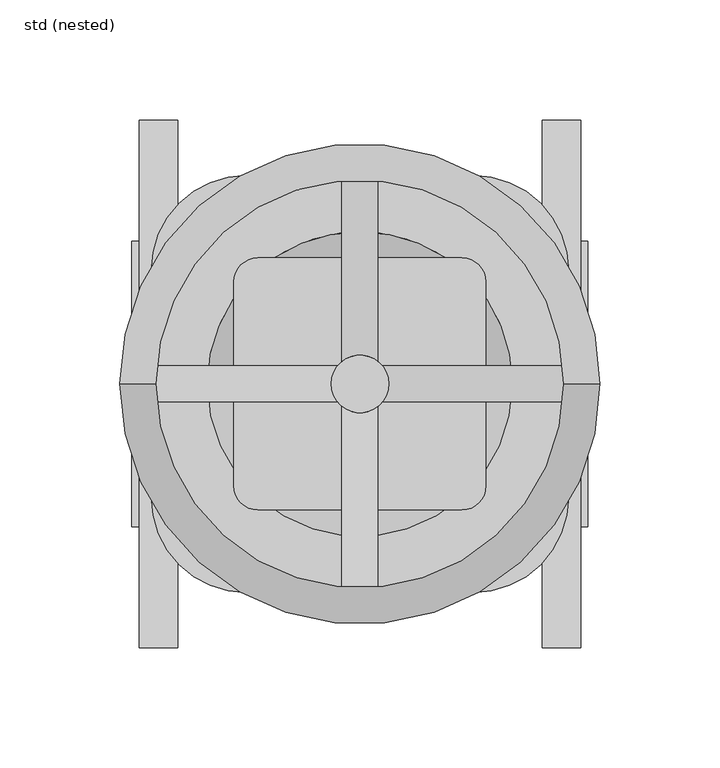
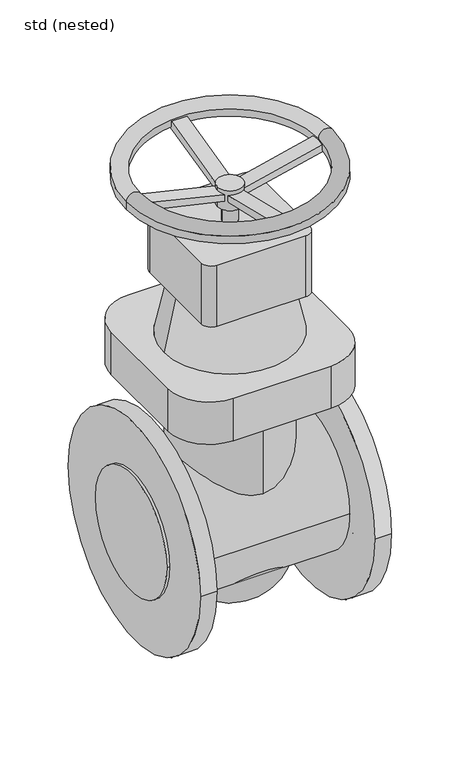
"""IFC4 building model written with IfcOpenShell, lengths in millimetres: valve geometry, ZZZ_do not use_PIA_FE_stop valve for muli pro_ACO : std (nested)."""

from ifc_helpers import new_model, si_unit, point, frame, origin, origin_2d, place, context, project, spatial, polyline, circle_curve, ellipse_curve, trimmed, segment, composite_curve, outline, extrude, source, transform, mapped, element, save
from ifc_brep_helpers import plane_surface, cylinder_surface, revolved_surface, advanced_brep


def std_nested_04ca3941(model_context):
    return source(origin(), model_context, "Body", "SolidModel", [
        advanced_brep(
        [(42.5, 52.5, 285.0), (-42.5, 52.5, 285.0), (-52.5, 42.5, 285.0), (-52.5, -42.5, 285.0), (-42.5, -52.5, 285.0), (42.5, -52.5, 285.0), (52.5, -42.5, 285.0), (52.5, 42.5, 285.0), (7.0, 0.0, 285.0), (-7.0, 0.0, 285.0), (42.5, 52.5, 223.0), (52.5, 42.5, 223.0), (52.5, 0.0, 223.0), (0.0, 52.5, 223.0), (52.5, -42.5, 223.0), (42.5, -52.5, 223.0), (0.0, -52.5, 223.0), (-42.5, -52.5, 223.0), (-52.5, -42.5, 223.0), (-52.5, 0.0, 223.0), (-52.5, 42.5, 223.0), (-42.5, 52.5, 223.0), (-7.0, 0.0, 302.0), (7.0, 0.0, 302.0), (-63.5, 0.0, 172.0), (63.5, 0.0, 172.0), (47.0, 87.0, 172.0), (-47.0, 87.0, 172.0), (-87.0, 47.0, 172.0), (-87.0, -47.0, 172.0), (-47.0, -87.0, 172.0), (47.0, -87.0, 172.0), (87.0, -47.0, 172.0), (87.0, 47.0, 172.0), (47.0, 87.0, 129.0), (87.0, 47.0, 129.0), (87.0, -47.0, 129.0), (47.0, -87.0, 129.0), (-47.0, -87.0, 129.0), (-87.0, -47.0, 129.0), (-87.0, 47.0, 129.0), (-47.0, 87.0, 129.0), (0.0, 55.0, 129.0), (0.0, -55.0, 129.0), (0.0, -55.0, -38.0), (-55.0, 0.0, -38.0), (0.0, 55.0, -38.0), (55.0, 0.0, -38.0)],
        [
            (0, 1),
            (1, 2, circle_curve(frame((-42.5, 42.5, 285.0), z_axis=(0.0, 0.0, 1.0), x_axis=(1.0, 0.0, 0.0)), 10.0)),
            (2, 3),
            (3, 4, circle_curve(frame((-42.5, -42.5, 285.0), z_axis=(0.0, 0.0, 1.0), x_axis=(1.0, 0.0, 0.0)), 10.0)),
            (4, 5),
            (5, 6, circle_curve(frame((42.5, -42.5, 285.0), z_axis=(0.0, 0.0, 1.0), x_axis=(1.0, 0.0, 0.0)), 10.0)),
            (6, 7),
            (7, 0, circle_curve(frame((42.5, 42.5, 285.0), z_axis=(0.0, 0.0, 1.0), x_axis=(1.0, 0.0, 0.0)), 10.0)),
            (8, 9, circle_curve(frame((0.0, 0.0, 285.0), z_axis=(0.0, 0.0, -1.0), x_axis=(1.0, 0.0, 0.0)), 7.0)),
            (9, 8, circle_curve(frame((0.0, 0.0, 285.0), z_axis=(0.0, 0.0, -1.0), x_axis=(1.0, 0.0, 0.0)), 7.0)),
            (10, 11, circle_curve(frame((42.5, 42.5, 223.0), z_axis=(0.0, 0.0, -1.0), x_axis=(1.0, 0.0, 0.0)), 10.0)),
            (11, 12),
            (12, 13, circle_curve(frame((0.0, 0.0, 223.0), z_axis=(0.0, 0.0, 1.0), x_axis=(1.0, 0.0, 0.0)), 52.5)),
            (13, 10),
            (14, 15, circle_curve(frame((42.5, -42.5, 223.0), z_axis=(0.0, 0.0, -1.0), x_axis=(1.0, 0.0, 0.0)), 10.0)),
            (15, 16),
            (16, 12, circle_curve(frame((0.0, 0.0, 223.0), z_axis=(0.0, 0.0, 1.0), x_axis=(-1.0, 0.0, 0.0)), 52.5)),
            (12, 14),
            (17, 18, circle_curve(frame((-42.5, -42.5, 223.0), z_axis=(0.0, 0.0, -1.0), x_axis=(1.0, 0.0, 0.0)), 10.0)),
            (18, 19),
            (19, 16, circle_curve(frame((0.0, 0.0, 223.0), z_axis=(0.0, 0.0, 1.0), x_axis=(-1.0, 0.0, 0.0)), 52.5)),
            (16, 17),
            (20, 21, circle_curve(frame((-42.5, 42.5, 223.0), z_axis=(0.0, 0.0, -1.0), x_axis=(1.0, 0.0, 0.0)), 10.0)),
            (21, 13),
            (13, 19, circle_curve(frame((0.0, 0.0, 223.0), z_axis=(0.0, 0.0, 1.0), x_axis=(1.0, 0.0, 0.0)), 52.5)),
            (19, 20),
            (0, 10),
            (21, 1),
            (2, 20),
            (18, 3),
            (4, 17),
            (15, 5),
            (6, 14),
            (11, 7),
            (22, 23, circle_curve(frame((0.0, 0.0, 302.0), z_axis=(0.0, 0.0, 1.0), x_axis=(1.0, 0.0, 0.0)), 7.0)),
            (23, 22, circle_curve(frame((0.0, 0.0, 302.0), z_axis=(0.0, 0.0, 1.0), x_axis=(1.0, 0.0, 0.0)), 7.0)),
            (22, 9),
            (8, 23),
            (24, 19),
            (12, 25),
            (25, 24, circle_curve(frame((0.0, 0.0, 172.0), z_axis=(0.0, 0.0, 1.0), x_axis=(1.0, 0.0, 0.0)), 63.5)),
            (24, 25, circle_curve(frame((0.0, 0.0, 172.0), z_axis=(0.0, 0.0, 1.0), x_axis=(-1.0, 0.0, 0.0)), 63.5)),
            (26, 27),
            (27, 28, circle_curve(frame((-47.0, 47.0, 172.0), z_axis=(0.0, 0.0, 1.0), x_axis=(1.0, 0.0, 0.0)), 40.0)),
            (28, 29),
            (29, 30, circle_curve(frame((-47.0, -47.0, 172.0), z_axis=(0.0, 0.0, 1.0), x_axis=(1.0, 0.0, 0.0)), 40.0)),
            (30, 31),
            (31, 32, circle_curve(frame((47.0, -47.0, 172.0), z_axis=(0.0, 0.0, 1.0), x_axis=(1.0, 0.0, 0.0)), 40.0)),
            (32, 33),
            (33, 26, circle_curve(frame((47.0, 47.0, 172.0), z_axis=(0.0, 0.0, 1.0), x_axis=(1.0, 0.0, 0.0)), 40.0)),
            (34, 35, circle_curve(frame((47.0, 47.0, 129.0), z_axis=(0.0, 0.0, -1.0), x_axis=(1.0, 0.0, 0.0)), 40.0)),
            (35, 36),
            (36, 37, circle_curve(frame((47.0, -47.0, 129.0), z_axis=(0.0, 0.0, -1.0), x_axis=(1.0, 0.0, 0.0)), 40.0)),
            (37, 38),
            (38, 39, circle_curve(frame((-47.0, -47.0, 129.0), z_axis=(0.0, 0.0, -1.0), x_axis=(1.0, 0.0, 0.0)), 40.0)),
            (39, 40),
            (40, 41, circle_curve(frame((-47.0, 47.0, 129.0), z_axis=(0.0, 0.0, -1.0), x_axis=(1.0, 0.0, 0.0)), 40.0)),
            (41, 34),
            (42, 43, circle_curve(frame((0.0, 0.0, 129.0), z_axis=(0.0, 0.0, 1.0), x_axis=(0.0, -1.0, 0.0)), 55.0)),
            (43, 42, circle_curve(frame((0.0, 0.0, 129.0), z_axis=(0.0, 0.0, 1.0), x_axis=(0.0, -1.0, 0.0)), 55.0)),
            (26, 34),
            (41, 27),
            (28, 40),
            (39, 29),
            (30, 38),
            (37, 31),
            (32, 36),
            (35, 33),
            (44, 45, circle_curve(frame((0.0, 0.0, -38.0), z_axis=(0.0, 0.0, -1.0), x_axis=(0.0, 1.0, 0.0)), 55.0)),
            (45, 46, circle_curve(frame((0.0, 0.0, -38.0), z_axis=(0.0, 0.0, -1.0), x_axis=(0.0, -1.0, 0.0)), 55.0)),
            (46, 47, circle_curve(frame((0.0, 0.0, -38.0), z_axis=(0.0, 0.0, -1.0), x_axis=(0.0, -1.0, 0.0)), 55.0)),
            (47, 44, circle_curve(frame((0.0, 0.0, -38.0), z_axis=(0.0, 0.0, -1.0), x_axis=(0.0, 1.0, 0.0)), 55.0)),
            (42, 46),
            (44, 43),
        ],
        [
            plane_surface(frame((-42.5, 52.5, 285.0), z_axis=(0.0, 0.0, 1.0), x_axis=(-1.0, 0.0, 0.0))),
            plane_surface(frame((-42.5, 52.5, 223.0), z_axis=(0.0, 0.0, -1.0), x_axis=(1.0, 0.0, 0.0))),
            plane_surface(frame((42.5, 52.5, 285.0), z_axis=(0.0, 1.0, 0.0), x_axis=(0.0, 0.0, -1.0))),
            plane_surface(frame((-52.5, 42.5, 285.0), z_axis=(-1.0, 0.0, 0.0), x_axis=(0.0, 0.0, -1.0))),
            plane_surface(frame((-42.5, -52.5, 285.0), z_axis=(0.0, -1.0, 0.0), x_axis=(0.0, 0.0, -1.0))),
            plane_surface(frame((52.5, -42.5, 285.0), z_axis=(1.0, 0.0, 0.0), x_axis=(0.0, 0.0, -1.0))),
            cylinder_surface(frame((-42.5, 42.5, 223.0), z_axis=(0.0, 0.0, 1.0), x_axis=(1.0, 0.0, 0.0)), 10.0),
            cylinder_surface(frame((-42.5, -42.5, 223.0), z_axis=(0.0, 0.0, 1.0), x_axis=(1.0, 0.0, 0.0)), 10.0),
            cylinder_surface(frame((42.5, -42.5, 223.0), z_axis=(0.0, 0.0, 1.0), x_axis=(1.0, 0.0, 0.0)), 10.0),
            cylinder_surface(frame((42.5, 42.5, 223.0), z_axis=(0.0, 0.0, 1.0), x_axis=(1.0, 0.0, 0.0)), 10.0),
            plane_surface(frame((7.0, 0.0, 302.0), z_axis=(0.0, 0.0, 1.0), x_axis=(0.0, 1.0, 0.0))),
            cylinder_surface(frame((0.0, 0.0, 285.0), z_axis=(0.0, 0.0, 1.0), x_axis=(1.0, 0.0, 0.0)), 7.0),
            revolved_surface(polyline([(-52.49999999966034, 0.0, 223.0), (-63.5, 0.0, 172.0)]), (0.0, 0.0, 466.4090909), (0.0, 0.0, -1.0)),
            plane_surface(frame((-47.0, 87.0, 172.0), z_axis=(0.0, 0.0, 1.0), x_axis=(-1.0, 0.0, 0.0))),
            plane_surface(frame((-47.0, 87.0, 129.0), z_axis=(0.0, 0.0, -1.0), x_axis=(1.0, 0.0, 0.0))),
            plane_surface(frame((47.0, 87.0, 172.0), z_axis=(0.0, 1.0, 0.0), x_axis=(0.0, 0.0, -1.0))),
            plane_surface(frame((-87.0, 47.0, 172.0), z_axis=(-1.0, 0.0, 0.0), x_axis=(0.0, 0.0, -1.0))),
            plane_surface(frame((-47.0, -87.0, 172.0), z_axis=(0.0, -1.0, 0.0), x_axis=(0.0, 0.0, -1.0))),
            plane_surface(frame((87.0, -47.0, 172.0), z_axis=(1.0, 0.0, 0.0), x_axis=(0.0, 0.0, -1.0))),
            cylinder_surface(frame((-47.0, 47.0, 129.0), z_axis=(0.0, 0.0, 1.0), x_axis=(1.0, 0.0, 0.0)), 40.0),
            cylinder_surface(frame((-47.0, -47.0, 129.0), z_axis=(0.0, 0.0, 1.0), x_axis=(1.0, 0.0, 0.0)), 40.0),
            cylinder_surface(frame((47.0, -47.0, 129.0), z_axis=(0.0, 0.0, 1.0), x_axis=(1.0, 0.0, 0.0)), 40.0),
            cylinder_surface(frame((47.0, 47.0, 129.0), z_axis=(0.0, 0.0, 1.0), x_axis=(1.0, 0.0, 0.0)), 40.0),
            revolved_surface(trimmed(ellipse_curve(frame((0.0, 0.0, -38.0), z_axis=(0.0, 0.0, 1.0), x_axis=(0.0, -1.0, 0.0)), 55.0, 55.0), [point((55.0, 0.0, -38.0))], [point((-55.0, 0.0, -38.0))], True, "CARTESIAN"), (-69.0, 0.0, -38.0), (-1.0, 0.0, 0.0)),
            cylinder_surface(frame((0.0, 0.0, -38.0), z_axis=(0.0, 0.0, 1.0), x_axis=(0.0, -1.0, 0.0)), 55.0),
        ],
        [
            (0, [[1, 2, 3, 4, 5, 6, 7, 8], [9, 10]]),
            (1, [[11, 12, 13, 14]]),
            (1, [[15, 16, 17, 18]]),
            (1, [[19, 20, 21, 22]]),
            (1, [[23, 24, 25, 26]]),
            (2, [[-1, 27, -14, -24, 28]]),
            (3, [[-3, 29, -26, -20, 30]]),
            (4, [[-5, 31, -22, -16, 32]]),
            (5, [[-7, 33, -18, -12, 34]]),
            (6, [[-2, -28, -23, -29]]),
            (7, [[-4, -30, -19, -31]]),
            (8, [[-6, -32, -15, -33]]),
            (9, [[-8, -34, -11, -27]]),
            (10, [[35, 36]]),
            (11, [[-35, 37, -9, 38]]),
            (11, [[-36, -38, -10, -37]]),
            (12, [[39, -25, -13, 40, 41]]),
            (12, [[-39, 42, -40, -17, -21]]),
            (13, [[43, 44, 45, 46, 47, 48, 49, 50], [-41, -42]]),
            (14, [[51, 52, 53, 54, 55, 56, 57, 58], [59, 60]]),
            (15, [[-43, 61, -58, 62]]),
            (16, [[-45, 63, -56, 64]]),
            (17, [[-47, 65, -54, 66]]),
            (18, [[-49, 67, -52, 68]]),
            (19, [[-44, -62, -57, -63]]),
            (20, [[-46, -64, -55, -65]]),
            (21, [[-48, -66, -53, -67]]),
            (22, [[-50, -68, -51, -61]]),
            (23, [[69, 70, 71, 72]]),
            (24, [[73, -70, -69, 74, -59]]),
            (24, [[-73, -60, -74, -72, -71]]),
        ],
    ),
        advanced_brep(
        [(-92.5, -7.5, 330.0), (-9.367497, -7.5, 310.8270984), (-9.367497, -7.5, 317.5781569), (-84.6684711, -7.5, 335.6232552), (-84.6684711, -7.5, 330.0), (9.367497, -7.5, 310.8270984), (92.5, -7.5, 330.0), (84.6684711, -7.5, 330.0), (84.6684711, -7.5, 335.6232552), (9.367497, -7.5, 317.5781569), (92.5, 7.5, 330.0), (9.367497, 7.5, 310.8270984), (9.367497, 7.5, 317.5781569), (84.6684711, 7.5, 335.6232552), (84.6684711, 7.5, 330.0), (-9.367497, 7.5, 310.8270984), (-92.5, 7.5, 330.0), (-84.6684711, 7.5, 330.0), (-84.6684711, 7.5, 335.6232552), (-9.367497, 7.5, 317.5781569), (12.0, 0.0, 318.209009), (85.0, 0.0, 335.7027027), (-12.0, 0.0, 318.209009), (-85.0, 0.0, 335.7027027), (-92.5, 0.0, 330.0), (-12.0, 0.0, 311.4342342), (12.0, 0.0, 311.4342342), (92.5, 0.0, 330.0), (-12.0, 0.0, 322.0), (12.0, 0.0, 322.0), (-12.0, 0.0, 302.0), (12.0, 0.0, 302.0), (7.5, -9.367497, 317.5781569), (7.5, -9.367497, 310.8270984), (-7.5, -9.367497, 310.8270984), (-7.5, -9.367497, 317.5781569), (7.5, 9.367497, 310.8270984), (7.5, 9.367497, 317.5781569), (-7.5, 9.367497, 317.5781569), (-7.5, 9.367497, 310.8270984), (7.5, -92.5, 330.0), (7.5, -84.6684711, 335.6232552), (7.5, -84.6684711, 330.0), (7.5, 92.5, 330.0), (7.5, 84.6684711, 330.0), (7.5, 84.6684711, 335.6232552), (-7.5, 92.5, 330.0), (-7.5, 84.6684711, 335.6232552), (-7.5, 84.6684711, 330.0), (-7.5, -92.5, 330.0), (-7.5, -84.6684711, 330.0), (-7.5, -84.6684711, 335.6232552), (-100.0, 0.0, 330.0), (100.0, 0.0, 330.0), (-100.0, 0.0, 337.5), (100.0, 0.0, 337.5), (-85.0, 0.0, 337.5), (85.0, 0.0, 337.5)],
        [
            (0, 1),
            (1, 2),
            (2, 3),
            (3, 4),
            (4, 0),
            (5, 6),
            (6, 7),
            (7, 8),
            (8, 9),
            (9, 5),
            (10, 11),
            (11, 12),
            (12, 13),
            (13, 14),
            (14, 10),
            (15, 16),
            (16, 17),
            (17, 18),
            (18, 19),
            (19, 15),
            (20, 9, ellipse_curve(frame((0.0, 0.0, 315.3333333), z_axis=(0.23304158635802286, 0.0, -0.9724667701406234), x_axis=(0.9724667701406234, 0.0, 0.23304158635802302)), 12.3397533, 12.0)),
            (8, 21, ellipse_curve(frame((0.0, 0.0, 315.3333333), z_axis=(-0.23304158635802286, 0.0, 0.9724667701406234), x_axis=(0.9724667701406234, 0.0, 0.23304158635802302)), 87.4065856, 85.0)),
            (21, 13, ellipse_curve(frame((0.0, 0.0, 315.3333333), z_axis=(-0.23304158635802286, 0.0, 0.9724667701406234), x_axis=(0.9724667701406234, 0.0, 0.23304158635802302)), 87.4065856, 85.0)),
            (12, 20, ellipse_curve(frame((0.0, 0.0, 315.3333333), z_axis=(0.23304158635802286, 0.0, -0.9724667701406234), x_axis=(0.9724667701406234, 0.0, 0.23304158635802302)), 12.3397533, 12.0)),
            (2, 22, ellipse_curve(frame((0.0, 0.0, 315.3333333), z_axis=(-0.23304158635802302, 0.0, -0.9724667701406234), x_axis=(-0.9724667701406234, 0.0, 0.23304158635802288)), 12.3397533, 12.0)),
            (22, 19, ellipse_curve(frame((0.0, 0.0, 315.3333333), z_axis=(-0.23304158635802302, 0.0, -0.9724667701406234), x_axis=(-0.9724667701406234, 0.0, 0.23304158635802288)), 12.3397533, 12.0)),
            (18, 23, ellipse_curve(frame((0.0, 0.0, 315.3333333), z_axis=(0.23304158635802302, 0.0, 0.9724667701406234), x_axis=(-0.9724667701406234, 0.0, 0.23304158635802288)), 87.4065856, 85.0)),
            (23, 3, ellipse_curve(frame((0.0, 0.0, 315.3333333), z_axis=(0.23304158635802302, 0.0, 0.9724667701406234), x_axis=(-0.9724667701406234, 0.0, 0.23304158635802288)), 87.4065856, 85.0)),
            (0, 24),
            (24, 16),
            (15, 25, ellipse_curve(frame((0.0, 0.0, 308.6666667), z_axis=(0.22473127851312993, 0.0, 0.9744207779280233), x_axis=(-0.9744207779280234, 0.0, 0.2247312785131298)), 12.3150083, 12.0)),
            (25, 1, ellipse_curve(frame((0.0, 0.0, 308.6666667), z_axis=(0.22473127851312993, 0.0, 0.9744207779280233), x_axis=(-0.9744207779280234, 0.0, 0.2247312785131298)), 12.3150083, 12.0)),
            (5, 26, ellipse_curve(frame((0.0, 0.0, 308.6666667), z_axis=(-0.22473127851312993, 0.0, 0.9744207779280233), x_axis=(0.9744207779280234, 0.0, 0.2247312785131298)), 12.3150083, 12.0)),
            (26, 11, ellipse_curve(frame((0.0, 0.0, 308.6666667), z_axis=(-0.22473127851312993, 0.0, 0.9744207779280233), x_axis=(0.9744207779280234, 0.0, 0.2247312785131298)), 12.3150083, 12.0)),
            (10, 27),
            (27, 6),
            (28, 29, circle_curve(frame((0.0, 0.0, 322.0), z_axis=(0.0, 0.0, 1.0), x_axis=(1.0, 0.0, 0.0)), 12.0)),
            (29, 28, circle_curve(frame((0.0, 0.0, 322.0), z_axis=(0.0, 0.0, 1.0), x_axis=(1.0, 0.0, 0.0)), 12.0)),
            (30, 31, circle_curve(frame((0.0, 0.0, 302.0), z_axis=(0.0, 0.0, -1.0), x_axis=(1.0, 0.0, 0.0)), 12.0)),
            (31, 30, circle_curve(frame((0.0, 0.0, 302.0), z_axis=(0.0, 0.0, -1.0), x_axis=(1.0, 0.0, 0.0)), 12.0)),
            (28, 22),
            (25, 30),
            (31, 26),
            (20, 29),
            (32, 33),
            (33, 34, ellipse_curve(frame((0.0, 0.0, 308.6666667), z_axis=(0.0, -0.22473127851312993, -0.9744207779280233), x_axis=(0.0, -0.9744207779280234, 0.2247312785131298)), 12.3150083, 12.0)),
            (34, 35),
            (35, 32, ellipse_curve(frame((0.0, 0.0, 315.3333333), z_axis=(0.0, 0.2330415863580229, 0.9724667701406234), x_axis=(0.0, -0.9724667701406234, 0.23304158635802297)), 12.3397533, 12.0)),
            (36, 37),
            (37, 38, ellipse_curve(frame((0.0, 0.0, 315.3333333), z_axis=(0.0, -0.233041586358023, 0.9724667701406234), x_axis=(0.0, 0.9724667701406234, 0.23304158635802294)), 12.3397533, 12.0)),
            (38, 39),
            (39, 36, ellipse_curve(frame((0.0, 0.0, 308.6666667), z_axis=(0.0, 0.22473127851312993, -0.9744207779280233), x_axis=(0.0, 0.9744207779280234, 0.2247312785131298)), 12.3150083, 12.0)),
            (40, 33),
            (32, 41),
            (41, 42),
            (42, 40),
            (36, 43),
            (43, 44),
            (44, 45),
            (45, 37),
            (46, 39),
            (38, 47),
            (47, 48),
            (48, 46),
            (34, 49),
            (49, 50),
            (50, 51),
            (51, 35),
            (40, 49),
            (46, 43),
            (45, 47, ellipse_curve(frame((0.0, 0.0, 315.3333333), z_axis=(0.0, -0.233041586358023, 0.9724667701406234), x_axis=(0.0, 0.9724667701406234, 0.23304158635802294)), 87.4065856, 85.0)),
            (51, 41, ellipse_curve(frame((0.0, 0.0, 315.3333333), z_axis=(0.0, 0.2330415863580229, 0.9724667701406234), x_axis=(0.0, -0.9724667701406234, 0.23304158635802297)), 87.4065856, 85.0)),
            (52, 53, circle_curve(frame((0.0, 0.0, 330.0), z_axis=(0.0, 0.0, -1.0), x_axis=(1.0, 0.0, 0.0)), 100.0)),
            (53, 27),
            (14, 44, circle_curve(frame((0.0, 0.0, 330.0), z_axis=(0.0, 0.0, 1.0), x_axis=(1.0, 0.0, 0.0)), 85.0)),
            (48, 17, circle_curve(frame((0.0, 0.0, 330.0), z_axis=(0.0, 0.0, 1.0), x_axis=(1.0, 0.0, 0.0)), 85.0)),
            (24, 52),
            (53, 52, circle_curve(frame((0.0, 0.0, 330.0), z_axis=(0.0, 0.0, -1.0), x_axis=(1.0, 0.0, 0.0)), 100.0)),
            (4, 50, circle_curve(frame((0.0, 0.0, 330.0), z_axis=(0.0, 0.0, 1.0), x_axis=(1.0, 0.0, 0.0)), 85.0)),
            (42, 7, circle_curve(frame((0.0, 0.0, 330.0), z_axis=(0.0, 0.0, 1.0), x_axis=(1.0, 0.0, 0.0)), 85.0)),
            (52, 54),
            (54, 55, circle_curve(frame((0.0, 0.0, 337.5), z_axis=(0.0, 0.0, -1.0), x_axis=(1.0, 0.0, 0.0)), 100.0)),
            (55, 53),
            (55, 54, circle_curve(frame((0.0, 0.0, 337.5), z_axis=(0.0, 0.0, -1.0), x_axis=(1.0, 0.0, 0.0)), 100.0)),
            (54, 56, circle_curve(frame((-92.5, 0.0, 337.5), z_axis=(0.0, 1.0, 0.0), x_axis=(0.0, 0.0, 1.0)), 7.5)),
            (56, 57, circle_curve(frame((0.0, 0.0, 337.5), z_axis=(0.0, 0.0, -1.0), x_axis=(1.0, 0.0, 0.0)), 85.0)),
            (57, 55, circle_curve(frame((92.5, 0.0, 337.5), z_axis=(0.0, 1.0, 0.0), x_axis=(0.0, 0.0, 1.0)), 7.5)),
            (57, 56, circle_curve(frame((0.0, 0.0, 337.5), z_axis=(0.0, 0.0, -1.0), x_axis=(1.0, 0.0, 0.0)), 85.0)),
            (56, 23),
            (21, 57),
        ],
        [
            plane_surface(frame((92.5, -7.5, 330.0), z_axis=(0.0, -1.0, 0.0), x_axis=(0.0, 0.0, 1.0))),
            plane_surface(frame((92.5, 7.5, 330.0), z_axis=(0.0, 1.0, 0.0), x_axis=(0.0, 0.0, -1.0))),
            plane_surface(frame((92.5, -7.5, 337.5), z_axis=(-0.23304158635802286, 0.0, 0.9724667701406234), x_axis=(0.0, 1.0, 0.0))),
            plane_surface(frame((0.0, -7.5, 315.3333333), z_axis=(0.23304158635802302, 0.0, 0.9724667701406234), x_axis=(0.0, 1.0, 0.0))),
            plane_surface(frame((-92.5, -7.5, 330.0), z_axis=(-0.22473127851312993, 0.0, -0.9744207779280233), x_axis=(0.0, 1.0, 0.0))),
            plane_surface(frame((0.0, -7.5, 308.6666667), z_axis=(0.22473127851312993, 0.0, -0.9744207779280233), x_axis=(0.0, 1.0, 0.0))),
            plane_surface(frame((12.0, 0.0, 322.0), z_axis=(0.0, 0.0, 1.0), x_axis=(0.0, 1.0, 0.0))),
            plane_surface(frame((12.0, 0.0, 302.0), z_axis=(0.0, 0.0, -1.0), x_axis=(0.0, -1.0, 0.0))),
            cylinder_surface(frame((0.0, 0.0, 302.0), z_axis=(0.0, 0.0, 1.0), x_axis=(1.0, 0.0, 0.0)), 12.0),
            plane_surface(frame((7.5, 0.0, 308.6666667), z_axis=(1.0, 0.0, 0.0), x_axis=(0.0, 0.9744207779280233, -0.22473127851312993))),
            plane_surface(frame((-7.5, 0.0, 308.6666667), z_axis=(-1.0, 0.0, 0.0), x_axis=(0.0, -0.9744207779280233, 0.22473127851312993))),
            plane_surface(frame((7.5, -92.5, 330.0), z_axis=(0.0, -0.22473127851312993, -0.9744207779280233), x_axis=(-1.0, 0.0, 0.0))),
            plane_surface(frame((7.5, 0.0, 308.6666667), z_axis=(0.0, 0.22473127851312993, -0.9744207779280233), x_axis=(-1.0, 0.0, 0.0))),
            plane_surface(frame((7.5, 92.5, 337.5), z_axis=(0.0, -0.233041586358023, 0.9724667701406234), x_axis=(-1.0, 0.0, 0.0))),
            plane_surface(frame((7.5, 0.0, 315.3333333), z_axis=(0.0, 0.2330415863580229, 0.9724667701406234), x_axis=(-1.0, 0.0, 0.0))),
            plane_surface(frame((0.0, 0.0, 330.0), z_axis=(0.0, 0.0, -1.0), x_axis=(1.0, 0.0, 0.0))),
            cylinder_surface(frame((0.0, 0.0, 435.0), z_axis=(0.0, 0.0, 1.0), x_axis=(1.0, 0.0, 0.0)), 100.0),
            revolved_surface(trimmed(ellipse_curve(frame((92.5, 0.0, 337.5), z_axis=(0.0, -1.0, 0.0), x_axis=(0.0, 0.0, 1.0)), 7.5, 7.5), [point((100.0, 0.0, 337.5))], [point((85.0, 0.0, 337.5))], True, "CARTESIAN"), (0.0, 0.0, 435.0), (0.0, 0.0, 1.0)),
            revolved_surface(polyline([(85.0, 0.0, 337.5), (85.0, 0.0, 294.9639639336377)]), (0.0, 0.0, 435.0), (0.0, 0.0, 1.0)),
        ],
        [
            (0, [[1, 2, 3, 4, 5]]),
            (0, [[6, 7, 8, 9, 10]]),
            (1, [[11, 12, 13, 14, 15]]),
            (1, [[16, 17, 18, 19, 20]]),
            (2, [[21, -9, 22, 23, -13, 24]]),
            (3, [[25, 26, -19, 27, 28, -3]]),
            (4, [[-1, 29, 30, -16, 31, 32]]),
            (5, [[-6, 33, 34, -11, 35, 36]]),
            (6, [[37, 38]]),
            (7, [[39, 40]]),
            (8, [[-37, 41, -25, -2, -32, 42, -40, 43, -33, -10, -21, 44], [45, 46, 47, 48]]),
            (8, [[-38, -44, -24, -12, -34, -43, -39, -42, -31, -20, -26, -41], [49, 50, 51, 52]]),
            (9, [[53, -45, 54, 55, 56]]),
            (9, [[57, 58, 59, 60, -49]]),
            (10, [[61, -51, 62, 63, 64]]),
            (10, [[65, 66, 67, 68, -47]]),
            (11, [[-53, 69, -65, -46]]),
            (12, [[-57, -52, -61, 70]]),
            (13, [[-50, -60, 71, -62]]),
            (14, [[-48, -68, 72, -54]]),
            (15, [[73, 74, -35, -15, 75, -58, -70, -64, 76, -17, -30, 77]]),
            (15, [[78, -77, -29, -5, 79, -66, -69, -56, 80, -7, -36, -74]]),
            (16, [[-73, 81, 82, 83]]),
            (16, [[-78, -83, 84, -81]]),
            (17, [[-82, 85, 86, 87]]),
            (17, [[-84, -87, 88, -85]]),
            (18, [[-86, 89, -27, -18, -76, -63, -71, -59, -75, -14, -23, 90]]),
            (18, [[-88, -90, -22, -8, -80, -55, -72, -67, -79, -4, -28, -89]]),
        ],
    ),
        advanced_brep(
        [(76.0, -68.0, 0.0), (76.0, 68.0, 0.0), (-76.0, -68.0, 0.0), (-76.0, 68.0, 0.0), (-76.0, -110.0, 0.0), (-76.0, 110.0, 0.0), (-92.0, -110.0, 0.0), (-92.0, 110.0, 0.0)],
        [
            (0, 1, circle_curve(frame((76.0, 0.0, 0.0), z_axis=(1.0, 0.0, 0.0), x_axis=(0.0, 1.0, 0.0)), 68.0)),
            (1, 0, circle_curve(frame((76.0, 0.0, 0.0), z_axis=(1.0, 0.0, 0.0), x_axis=(0.0, 1.0, 0.0)), 68.0)),
            (0, 2),
            (2, 3, circle_curve(frame((-76.0, 0.0, 0.0), z_axis=(1.0, 0.0, 0.0), x_axis=(0.0, 1.0, 0.0)), 68.0)),
            (3, 1),
            (3, 2, circle_curve(frame((-76.0, 0.0, 0.0), z_axis=(1.0, 0.0, 0.0), x_axis=(0.0, 1.0, 0.0)), 68.0)),
            (4, 5, circle_curve(frame((-76.0, 0.0, 0.0), z_axis=(1.0, 0.0, 0.0), x_axis=(0.0, 1.0, 0.0)), 110.0)),
            (5, 4, circle_curve(frame((-76.0, 0.0, 0.0), z_axis=(1.0, 0.0, 0.0), x_axis=(0.0, 1.0, 0.0)), 110.0)),
            (6, 7, circle_curve(frame((-92.0, 0.0, 0.0), z_axis=(-1.0, 0.0, 0.0), x_axis=(0.0, 1.0, 0.0)), 110.0)),
            (7, 6, circle_curve(frame((-92.0, 0.0, 0.0), z_axis=(-1.0, 0.0, 0.0), x_axis=(0.0, 1.0, 0.0)), 110.0)),
            (4, 6),
            (7, 5),
        ],
        [
            plane_surface(frame((76.0, 68.0, 0.0), z_axis=(1.0, 0.0, 0.0), x_axis=(0.0, 0.0, 1.0))),
            cylinder_surface(frame((-76.0, 0.0, 0.0), z_axis=(1.0, 0.0, 0.0), x_axis=(0.0, 1.0, 0.0)), 68.0),
            plane_surface(frame((-76.0, 110.0, 0.0), z_axis=(1.0, 0.0, 0.0), x_axis=(0.0, 0.0, 1.0))),
            plane_surface(frame((-92.0, 110.0, 0.0), z_axis=(-1.0, 0.0, 0.0), x_axis=(0.0, 0.0, -1.0))),
            cylinder_surface(frame((-92.0, 0.0, 0.0), z_axis=(1.0, 0.0, 0.0), x_axis=(0.0, 1.0, 0.0)), 110.0),
        ],
        [
            (0, [[1, 2]]),
            (1, [[-1, 3, 4, 5]]),
            (1, [[-2, -5, 6, -3]]),
            (2, [[7, 8], [-4, -6]]),
            (3, [[9, 10]]),
            (4, [[-7, 11, -10, 12]]),
            (4, [[-8, -12, -9, -11]]),
        ],
    ),
        extrude(outline(composite_curve([segment(trimmed(circle_curve(origin_2d(), 110.0), [point((-110.0, 0.0))], [point((110.0, 0.0))], False, "CARTESIAN"), True, "CONTINUOUS"), segment(trimmed(circle_curve(origin_2d(), 110.0), [point((110.0, 0.0))], [point((-110.0, 0.0))], False, "CARTESIAN"), True, "CONTINUOUS")], self_intersect=False)), frame((76.0, 0.0, 0.0), z_axis=(1.0, 0.0, 0.0), x_axis=(0.0, 1.0, 0.0)), (0.0, 0.0, 1.0), 16.0),
        extrude(outline(composite_curve([segment(trimmed(circle_curve(origin_2d(), 59.5), [point((-59.5, 0.0))], [point((59.5, 0.0))], False, "CARTESIAN"), True, "CONTINUOUS"), segment(trimmed(circle_curve(origin_2d(), 59.5), [point((59.5, 0.0))], [point((-59.5, 0.0))], False, "CARTESIAN"), True, "CONTINUOUS")], self_intersect=False)), frame((92.0, 0.0, 0.0), z_axis=(1.0, 0.0, 0.0), x_axis=(0.0, 1.0, 0.0)), (0.0, 0.0, 1.0), 3.0),
        extrude(outline(composite_curve([segment(trimmed(circle_curve(origin_2d(), 59.5), [point((-59.5, 0.0))], [point((59.5, 0.0))], False, "CARTESIAN"), True, "CONTINUOUS"), segment(trimmed(circle_curve(origin_2d(), 59.5), [point((59.5, 0.0))], [point((-59.5, 0.0))], False, "CARTESIAN"), True, "CONTINUOUS")], self_intersect=False)), frame((-95.0, 0.0, 0.0), z_axis=(1.0, 0.0, 0.0), x_axis=(0.0, 1.0, 0.0)), (0.0, 0.0, 1.0), 3.0),
    ])


if __name__ == "__main__":
    model = new_model("IFC4")
    model_context = context("Model", 3, world=origin())
    ifc_project = project(units=[si_unit("LENGTHUNIT", "METRE", prefix="MILLI")], contexts=[model_context])
    site = spatial("IfcSite", under=ifc_project)
    building = spatial("IfcBuilding", under=site)
    placement = place(None, origin())
    std_nested_shape = std_nested_04ca3941(model_context)
    element("IfcValve", 1, ObjectType="ZZZ_do not use_PIA_FE_stop valve for muli pro_ACO : std (nested)", at=placement, inside=building, context=model_context, shape_type="MappedRepresentation", body=[
        mapped(std_nested_shape, transform((0.0, 0.0, 0.0), x_axis=(1.0, 0.0, 0.0), y_axis=(0.0, 1.0, 0.0), z_axis=(0.0, 0.0, 1.0))),
    ])
    save(model, "model.ifc")
